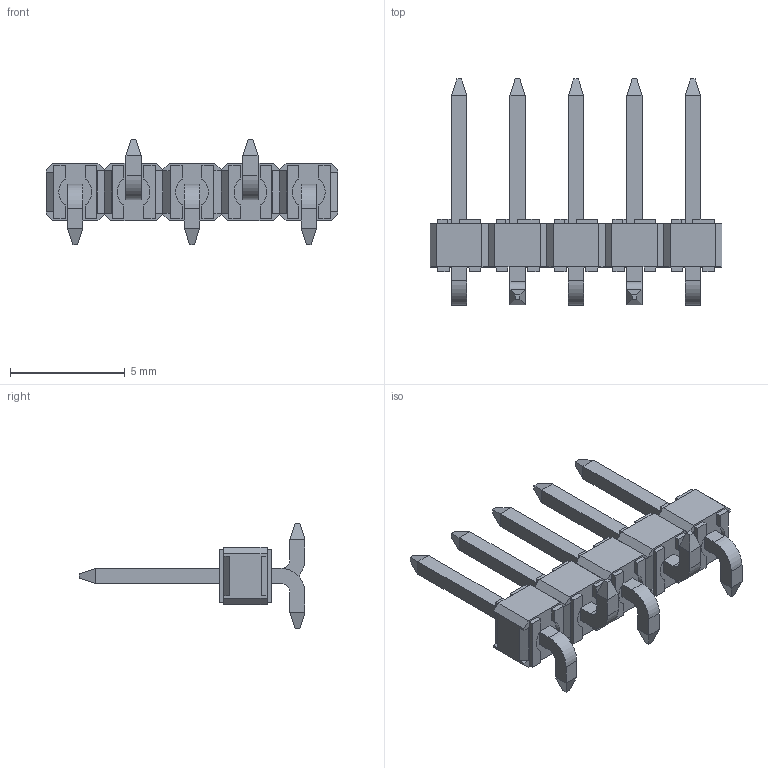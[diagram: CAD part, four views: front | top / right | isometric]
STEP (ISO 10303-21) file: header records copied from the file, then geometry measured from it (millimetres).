
FILE_DESCRIPTION((''),'2;1');
FILE_NAME('683011016','2008-04-14T',('PNB'),(''),'PRO/ENGINEER BY PARAMETRIC TECHNOLOGY CORPORATION, 2003451','PRO/ENGINEER BY PARAMETRIC TECHNOLOGY CORPORATION, 2003451','');
FILE_SCHEMA(('CONFIG_CONTROL_DESIGN'));
Length unit declared in the file: inch
Products named in the file (1): 683011016
Bounding box: 12.7 x 9.83 x 4.57 mm (x, y, z)
Volume: 79.8 mm3; surface area: 268.4 mm2
Topology: 1 solids, 1 shells, 328 faces, 844 edges, 556 vertices
Faces by surface type: plane 298, cylinder 30
Entity records: 9782 total; most frequent: CARTESIAN_POINT 1709, ORIENTED_EDGE 1648, DIRECTION 1562, EDGE_CURVE 824, VECTOR 784, LINE 784, VERTEX_POINT 536, AXIS2_PLACEMENT_3D 389
